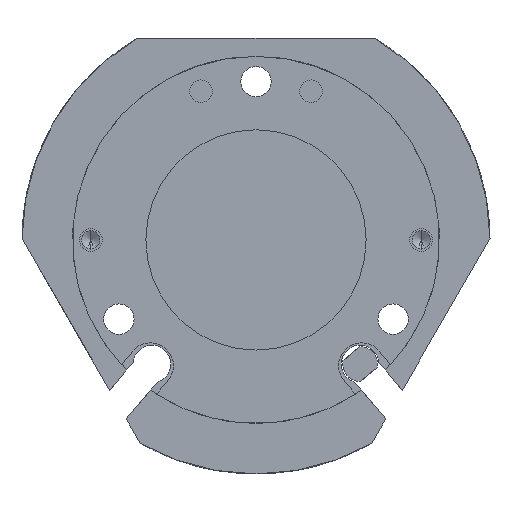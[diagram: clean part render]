
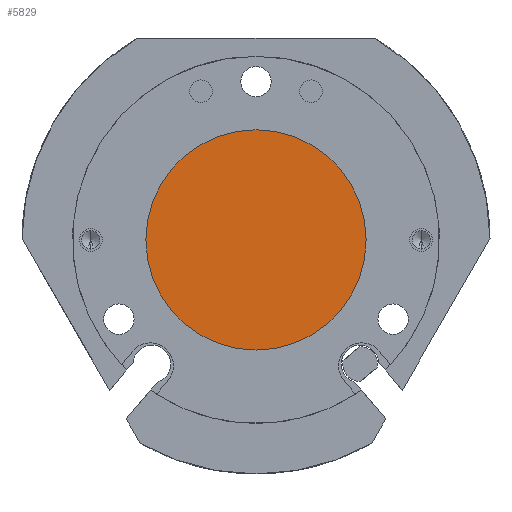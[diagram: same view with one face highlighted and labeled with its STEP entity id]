
A CAD part, front view. The second image highlights one B-rep face of the part: STEP entity #5829.
In plain terms, the highlighted planar face has unit normal (0, -1, 0) as drawn and (0, 1, 0) by its records, which use the part's own axes.
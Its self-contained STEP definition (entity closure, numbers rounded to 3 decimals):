
#744 = CARTESIAN_POINT ( 'NONE',  ( 0., 2.5, -12. ) ) ;
#984 = DIRECTION ( 'NONE',  ( 0., 0., 1. ) ) ;
#1414 = AXIS2_PLACEMENT_3D ( 'NONE', #4851, #4819, #4756 ) ;
#3191 = CARTESIAN_POINT ( 'NONE',  ( 0., 2.5, 0. ) ) ;
#3399 = EDGE_CURVE ( 'NONE', #4843, #5425, #8410, .T. ) ;
#3470 = EDGE_CURVE ( 'NONE', #5425, #4843, #3632, .T. ) ;
#3632 = CIRCLE ( 'NONE', #1414, 12. ) ;
#4680 = PLANE ( 'NONE',  #6817 ) ;
#4756 = DIRECTION ( 'NONE',  ( 0., 0., -1. ) ) ;
#4819 = DIRECTION ( 'NONE',  ( 0., 1., 0. ) ) ;
#4843 = VERTEX_POINT ( 'NONE', #744 ) ;
#4851 = CARTESIAN_POINT ( 'NONE',  ( 0., 2.5, 0. ) ) ;
#5425 = VERTEX_POINT ( 'NONE', #5711 ) ;
#5470 = DIRECTION ( 'NONE',  ( 0., 1., 0. ) ) ;
#5621 = FACE_OUTER_BOUND ( 'NONE', #9744, .T. ) ;
#5711 = CARTESIAN_POINT ( 'NONE',  ( 0., 2.5, 12. ) ) ;
#5829 = ADVANCED_FACE ( 'NONE', ( #5621 ), #4680, .T. ) ;
#5920 = ORIENTED_EDGE ( 'NONE', *, *, #3399, .T. ) ;
#6052 = ORIENTED_EDGE ( 'NONE', *, *, #3470, .T. ) ;
#6817 = AXIS2_PLACEMENT_3D ( 'NONE', #3191, #5470, #984 ) ;
#7709 = DIRECTION ( 'NONE',  ( 0., 0., -1. ) ) ;
#7739 = DIRECTION ( 'NONE',  ( 0., 1., 0. ) ) ;
#7777 = CARTESIAN_POINT ( 'NONE',  ( 0., 2.5, 0. ) ) ;
#8208 = AXIS2_PLACEMENT_3D ( 'NONE', #7777, #7739, #7709 ) ;
#8410 = CIRCLE ( 'NONE', #8208, 12. ) ;
#9744 = EDGE_LOOP ( 'NONE', ( #5920, #6052 ) ) ;
